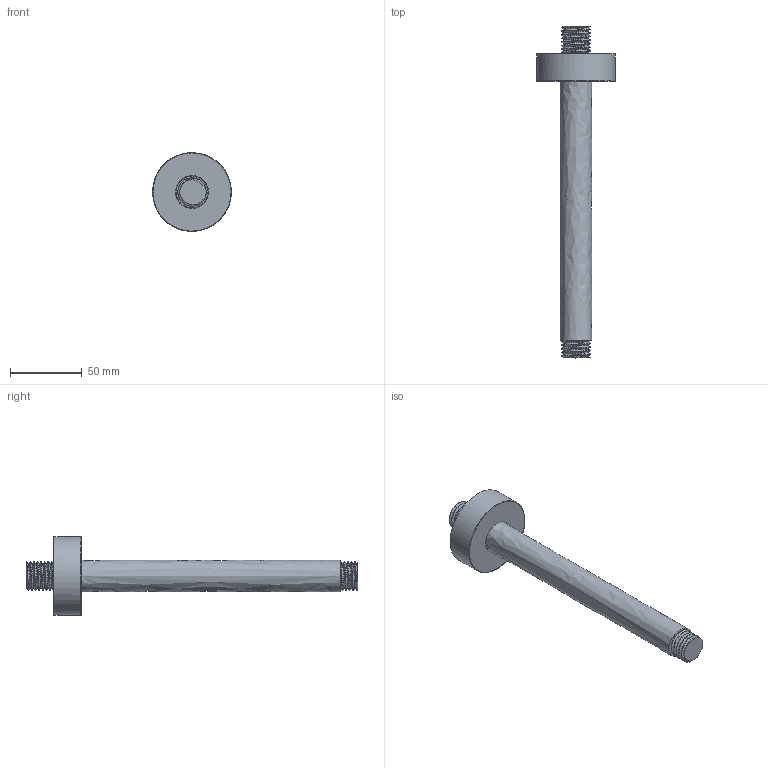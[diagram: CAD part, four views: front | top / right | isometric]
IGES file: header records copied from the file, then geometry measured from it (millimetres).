
Global section: file name: 4aba32ff-fb8f-4d3b-9ad4-9529761a1d7a; native system: unknown; preprocessor: unknown; author: unknown; organization: unknown; date: 20191214.205235; units: millimetre
Bounding box: 55 x 232 x 54.98 mm (x, y, z)
Volume: 121658.4 mm3; surface area: 26725.9 mm2
Topology: 3 solids, 3 shells, 20 faces, 44 edges, 31 vertices
Faces by surface type: bspline 20
